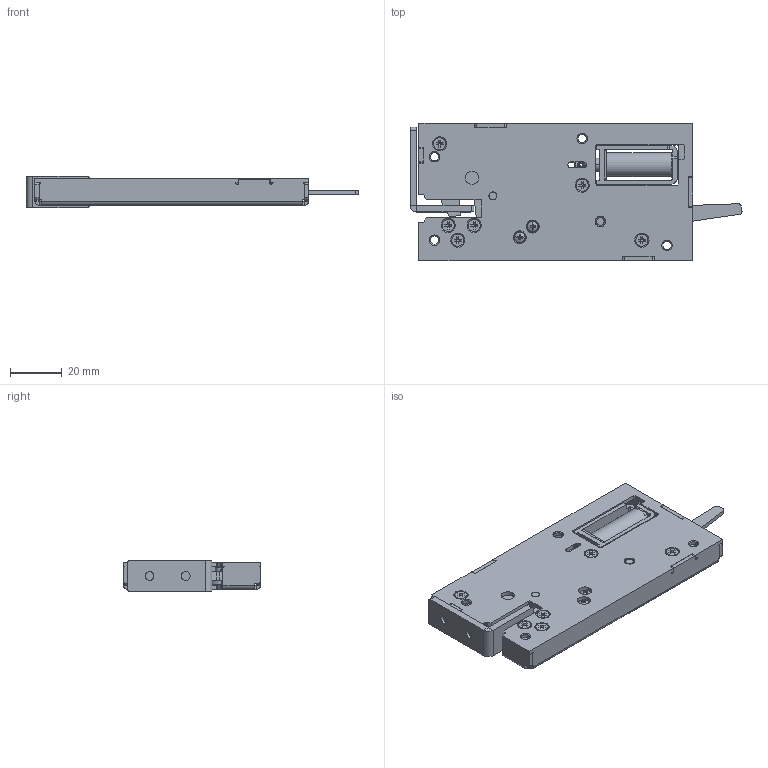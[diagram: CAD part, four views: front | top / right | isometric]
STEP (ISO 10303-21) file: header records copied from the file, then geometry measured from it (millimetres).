
FILE_DESCRIPTION (( 'STEP AP203' ), '1' );
FILE_NAME ('開錠レバー付きスリムロック.STEP', '2019-06-18T03:13:29', ( '' ), ( '' ), 'SwSTEP 2.0', 'SolidWorks 2018', '' );
FILE_SCHEMA (( 'CONFIG_CONTROL_DESIGN' ));
Length unit declared in the file: millimetre
Products named in the file (16): cross recessed countersunk head screw_jis_JIS 1111 Cross recessed countersunk head screw - M2.5 x 4 - Z --4N; カム_WEB用; ソレノイド_スリムロック用; ベース　カバー_WEB用; finished circular plain washer_jis_JIS B 1256 Finished circular 2; レバーシャフト_WEB用; 奐忶谑薨_WB梡; 開錠レバー付きスリムロック; カムストッパーピン_WEB用_カシメ後; cross recessed pan head screw_jis_JIS B 1111 Cross recessed pan head screw - M2 x 8 - Z --8N; 止めピン_WEB用_カシメ後; Part1^ソレノイド_スリムロック用; ロック金具_WEB用; spring pin_ab_jis_JIS B 2808 2x10 A W; PL; spring lock washer_2_jis_JIS B 1251 No.2 2
Assembly tree (32 placements, depth 3):
  開錠レバー付きスリムロック
    ベース　カバー_WEB用
    カム_WEB用
    ソレノイド_スリムロック用
      Part1^ソレノイド_スリムロック用
    PL
    spring pin_ab_jis_JIS B 2808 2x10 A W
    止めピン_WEB用_カシメ後  x4
    カムストッパーピン_WEB用_カシメ後
    finished circular plain washer_jis_JIS B 1256 Finished circular 2  x2
    spring lock washer_2_jis_JIS B 1251 No.2 2  x2
    cross recessed pan head screw_jis_JIS B 1111 Cross recessed pan head screw - M2 x 8 - Z --8N  x2
    cross recessed countersunk head screw_jis_JIS 1111 Cross recessed countersunk head screw - M2.5 x 4 - Z --4N  x12
    ロック金具_WEB用
    レバーシャフト_WEB用
    奐忶谑薨_WB梡
Bounding box: 128.05 x 53.2 x 12 mm (x, y, z)
Volume: 27345.6 mm3; surface area: 35117.4 mm2
Topology: 31 solids, 31 shells, 1365 faces, 3446 edges, 2095 vertices
Faces by surface type: plane 628, cylinder 407, cone 288, torus 32, bspline 6, sphere 4
Entity records: 28221 total; most frequent: CARTESIAN_POINT 4808, DIRECTION 4641, ORIENTED_EDGE 4380, EDGE_CURVE 2190, AXIS2_PLACEMENT_3D 1679, VERTEX_POINT 1374, VECTOR 1283, LINE 1283
